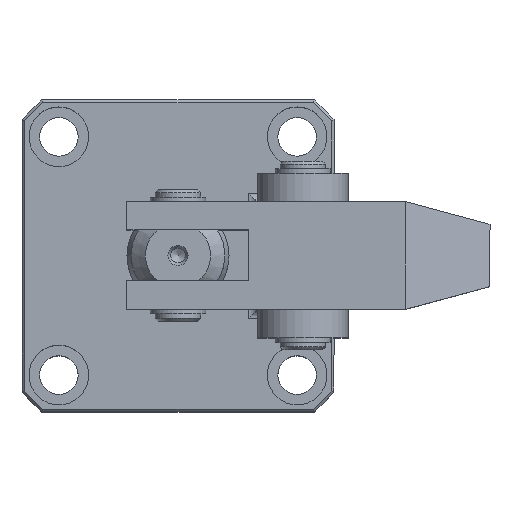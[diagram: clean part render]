
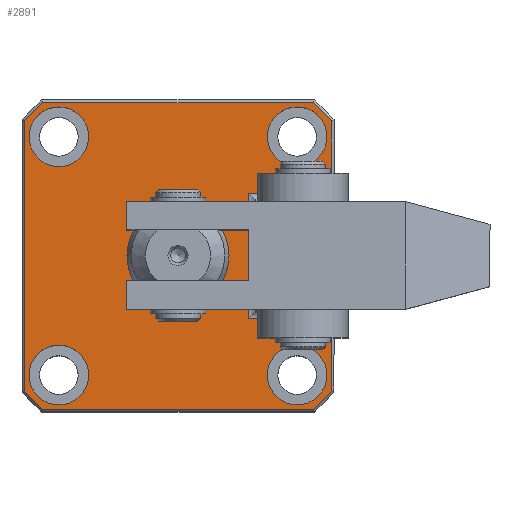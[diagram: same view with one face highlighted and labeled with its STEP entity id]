
A CAD part, top view. The second image highlights one B-rep face of the part: STEP entity #2891.
In plain terms, the highlighted planar face has unit normal (0, 0, 1).
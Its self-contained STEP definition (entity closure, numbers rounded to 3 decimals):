
#117=CIRCLE('',#3093,5.25);
#118=CIRCLE('',#3094,5.25);
#119=CIRCLE('',#3095,5.25);
#120=CIRCLE('',#3096,5.25);
#121=CIRCLE('',#3097,9.);
#122=CIRCLE('',#3098,36.);
#123=CIRCLE('',#3099,36.);
#124=CIRCLE('',#3100,36.);
#125=CIRCLE('',#3101,36.);
#275=PLANE('',#3092);
#359=LINE('',#4208,#491);
#376=LINE('',#4261,#508);
#377=LINE('',#4264,#509);
#378=LINE('',#4267,#510);
#379=LINE('',#4271,#511);
#380=LINE('',#4275,#512);
#381=LINE('',#4279,#513);
#382=LINE('',#4281,#514);
#491=VECTOR('',#3431,1000.);
#508=VECTOR('',#3468,1000.);
#509=VECTOR('',#3469,1000.);
#510=VECTOR('',#3472,1000.);
#511=VECTOR('',#3475,1000.);
#512=VECTOR('',#3478,1000.);
#513=VECTOR('',#3481,1000.);
#514=VECTOR('',#3482,1000.);
#652=ORIENTED_EDGE('',*,*,#1245,.F.);
#653=ORIENTED_EDGE('',*,*,#1246,.F.);
#654=ORIENTED_EDGE('',*,*,#1247,.F.);
#655=ORIENTED_EDGE('',*,*,#1248,.F.);
#656=ORIENTED_EDGE('',*,*,#1249,.T.);
#657=ORIENTED_EDGE('',*,*,#1250,.T.);
#658=ORIENTED_EDGE('',*,*,#1251,.T.);
#659=ORIENTED_EDGE('',*,*,#1225,.T.);
#660=ORIENTED_EDGE('',*,*,#1252,.T.);
#661=ORIENTED_EDGE('',*,*,#1253,.T.);
#662=ORIENTED_EDGE('',*,*,#1254,.T.);
#663=ORIENTED_EDGE('',*,*,#1255,.T.);
#664=ORIENTED_EDGE('',*,*,#1256,.T.);
#665=ORIENTED_EDGE('',*,*,#1257,.T.);
#666=ORIENTED_EDGE('',*,*,#1258,.T.);
#667=ORIENTED_EDGE('',*,*,#1259,.T.);
#668=ORIENTED_EDGE('',*,*,#1260,.T.);
#1225=EDGE_CURVE('',#1522,#1523,#359,.F.);
#1245=EDGE_CURVE('',#1539,#1539,#117,.T.);
#1246=EDGE_CURVE('',#1540,#1540,#118,.T.);
#1247=EDGE_CURVE('',#1541,#1541,#119,.T.);
#1248=EDGE_CURVE('',#1542,#1542,#120,.T.);
#1249=EDGE_CURVE('',#1543,#1543,#121,.T.);
#1250=EDGE_CURVE('',#1544,#1545,#376,.T.);
#1251=EDGE_CURVE('',#1545,#1522,#377,.T.);
#1252=EDGE_CURVE('',#1523,#1546,#122,.T.);
#1253=EDGE_CURVE('',#1546,#1547,#378,.F.);
#1254=EDGE_CURVE('',#1547,#1548,#123,.T.);
#1255=EDGE_CURVE('',#1548,#1549,#379,.F.);
#1256=EDGE_CURVE('',#1549,#1550,#124,.T.);
#1257=EDGE_CURVE('',#1550,#1551,#380,.F.);
#1258=EDGE_CURVE('',#1551,#1552,#125,.T.);
#1259=EDGE_CURVE('',#1552,#1553,#381,.F.);
#1260=EDGE_CURVE('',#1553,#1544,#382,.T.);
#1522=VERTEX_POINT('',#4209);
#1523=VERTEX_POINT('',#4210);
#1539=VERTEX_POINT('',#4252);
#1540=VERTEX_POINT('',#4254);
#1541=VERTEX_POINT('',#4256);
#1542=VERTEX_POINT('',#4258);
#1543=VERTEX_POINT('',#4260);
#1544=VERTEX_POINT('',#4262);
#1545=VERTEX_POINT('',#4263);
#1546=VERTEX_POINT('',#4266);
#1547=VERTEX_POINT('',#4268);
#1548=VERTEX_POINT('',#4270);
#1549=VERTEX_POINT('',#4272);
#1550=VERTEX_POINT('',#4274);
#1551=VERTEX_POINT('',#4276);
#1552=VERTEX_POINT('',#4278);
#1553=VERTEX_POINT('',#4280);
#1748=EDGE_LOOP('',(#652));
#1749=EDGE_LOOP('',(#653));
#1750=EDGE_LOOP('',(#654));
#1751=EDGE_LOOP('',(#655));
#1752=EDGE_LOOP('',(#656));
#1753=EDGE_LOOP('',(#657,#658,#659,#660,#661,#662,#663,#664,#665,#666,#667,
#668));
#2008=FACE_BOUND('',#1748,.T.);
#2009=FACE_BOUND('',#1749,.T.);
#2010=FACE_BOUND('',#1750,.T.);
#2011=FACE_BOUND('',#1751,.T.);
#2012=FACE_BOUND('',#1752,.T.);
#2013=FACE_BOUND('',#1753,.T.);
#2891=ADVANCED_FACE('',(#2008,#2009,#2010,#2011,#2012,#2013),#275,.T.);
#3092=AXIS2_PLACEMENT_3D('',#4250,#3456,#3457);
#3093=AXIS2_PLACEMENT_3D('',#4251,#3458,#3459);
#3094=AXIS2_PLACEMENT_3D('',#4253,#3460,#3461);
#3095=AXIS2_PLACEMENT_3D('',#4255,#3462,#3463);
#3096=AXIS2_PLACEMENT_3D('',#4257,#3464,#3465);
#3097=AXIS2_PLACEMENT_3D('',#4259,#3466,#3467);
#3098=AXIS2_PLACEMENT_3D('',#4265,#3470,#3471);
#3099=AXIS2_PLACEMENT_3D('',#4269,#3473,#3474);
#3100=AXIS2_PLACEMENT_3D('',#4273,#3476,#3477);
#3101=AXIS2_PLACEMENT_3D('',#4277,#3479,#3480);
#3431=DIRECTION('',(0.,-1.,0.));
#3456=DIRECTION('',(0.,0.,1.));
#3457=DIRECTION('',(0.,-1.,0.));
#3458=DIRECTION('',(0.,0.,1.));
#3459=DIRECTION('',(1.,0.,0.));
#3460=DIRECTION('',(0.,0.,1.));
#3461=DIRECTION('',(1.,0.,0.));
#3462=DIRECTION('',(0.,0.,1.));
#3463=DIRECTION('',(1.,0.,0.));
#3464=DIRECTION('',(0.,0.,1.));
#3465=DIRECTION('',(1.,0.,0.));
#3466=DIRECTION('',(0.,0.,-1.));
#3467=DIRECTION('',(0.,-1.,0.));
#3468=DIRECTION('',(0.,1.,0.));
#3469=DIRECTION('',(1.,0.,0.));
#3470=DIRECTION('',(0.,0.,1.));
#3471=DIRECTION('',(0.,-1.,0.));
#3472=DIRECTION('',(1.,0.,0.));
#3473=DIRECTION('',(0.,0.,1.));
#3474=DIRECTION('',(0.,-1.,0.));
#3475=DIRECTION('',(0.,1.,0.));
#3476=DIRECTION('',(0.,0.,1.));
#3477=DIRECTION('',(0.,-1.,0.));
#3478=DIRECTION('',(-1.,0.,0.));
#3479=DIRECTION('',(0.,0.,1.));
#3480=DIRECTION('',(0.,-1.,0.));
#3481=DIRECTION('',(0.,-1.,0.));
#3482=DIRECTION('',(-1.,0.,0.));
#4208=CARTESIAN_POINT('',(27.009,0.,85.));
#4209=CARTESIAN_POINT('',(27.009,11.,85.));
#4210=CARTESIAN_POINT('',(27.009,23.812,85.));
#4250=CARTESIAN_POINT('',(0.009,0.,85.));
#4251=CARTESIAN_POINT('',(-20.991,21.,85.));
#4252=CARTESIAN_POINT('',(-15.741,21.,85.));
#4253=CARTESIAN_POINT('',(-20.991,-21.,85.));
#4254=CARTESIAN_POINT('',(-15.741,-21.,85.));
#4255=CARTESIAN_POINT('',(21.009,-21.,85.));
#4256=CARTESIAN_POINT('',(26.259,-21.,85.));
#4257=CARTESIAN_POINT('',(21.009,21.,85.));
#4258=CARTESIAN_POINT('',(26.259,21.,85.));
#4259=CARTESIAN_POINT('',(0.009,0.,85.));
#4260=CARTESIAN_POINT('',(0.009,-9.,85.));
#4261=CARTESIAN_POINT('',(12.509,9.5,85.));
#4262=CARTESIAN_POINT('',(12.509,-11.,85.));
#4263=CARTESIAN_POINT('',(12.509,11.,85.));
#4264=CARTESIAN_POINT('',(27.009,11.,85.));
#4265=CARTESIAN_POINT('',(0.009,0.,85.));
#4266=CARTESIAN_POINT('',(23.821,27.,85.));
#4267=CARTESIAN_POINT('',(0.009,27.,85.));
#4268=CARTESIAN_POINT('',(-23.803,27.,85.));
#4269=CARTESIAN_POINT('',(0.009,0.,85.));
#4270=CARTESIAN_POINT('',(-26.991,23.812,85.));
#4271=CARTESIAN_POINT('',(-26.991,0.,85.));
#4272=CARTESIAN_POINT('',(-26.991,-23.812,85.));
#4273=CARTESIAN_POINT('',(0.009,0.,85.));
#4274=CARTESIAN_POINT('',(-23.803,-27.,85.));
#4275=CARTESIAN_POINT('',(0.009,-27.,85.));
#4276=CARTESIAN_POINT('',(23.821,-27.,85.));
#4277=CARTESIAN_POINT('',(0.009,0.,85.));
#4278=CARTESIAN_POINT('',(27.009,-23.812,85.));
#4279=CARTESIAN_POINT('',(27.009,0.,85.));
#4280=CARTESIAN_POINT('',(27.009,-11.,85.));
#4281=CARTESIAN_POINT('',(0.009,-11.,85.));
